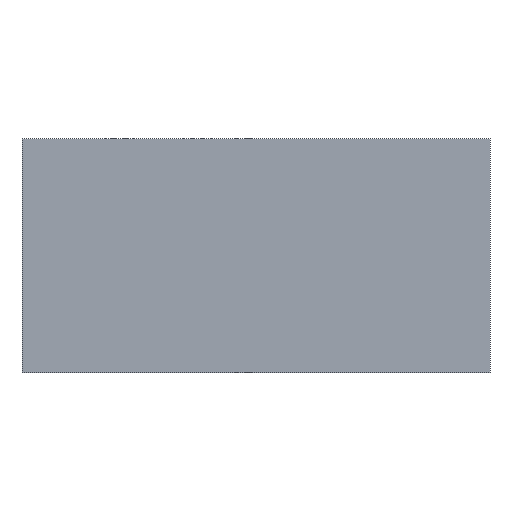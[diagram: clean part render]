
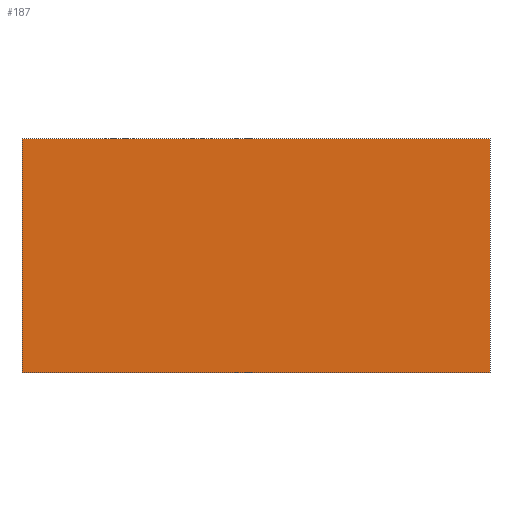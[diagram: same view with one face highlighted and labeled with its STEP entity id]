
A CAD part, front view. The second image highlights one B-rep face of the part: STEP entity #187.
In plain terms, the highlighted planar face has unit normal (0, -1, 0).
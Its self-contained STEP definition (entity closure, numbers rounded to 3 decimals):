
#25=FACE_OUTER_BOUND('',#36,.T.);
#36=EDGE_LOOP('',(#162,#163,#164,#165));
#53=LINE('',#302,#76);
#55=LINE('',#306,#78);
#57=LINE('',#310,#80);
#59=LINE('',#313,#82);
#76=VECTOR('',#251,10.);
#78=VECTOR('',#255,10.);
#80=VECTOR('',#259,10.);
#82=VECTOR('',#263,10.);
#93=VERTEX_POINT('',#299);
#94=VERTEX_POINT('',#301);
#95=VERTEX_POINT('',#305);
#96=VERTEX_POINT('',#309);
#113=EDGE_CURVE('',#94,#93,#53,.T.);
#115=EDGE_CURVE('',#95,#94,#55,.T.);
#117=EDGE_CURVE('',#96,#95,#57,.T.);
#119=EDGE_CURVE('',#93,#96,#59,.T.);
#162=ORIENTED_EDGE('',*,*,#119,.T.);
#163=ORIENTED_EDGE('',*,*,#117,.T.);
#164=ORIENTED_EDGE('',*,*,#115,.T.);
#165=ORIENTED_EDGE('',*,*,#113,.T.);
#176=PLANE('',#218);
#187=ADVANCED_FACE('',(#25),#176,.T.);
#218=AXIS2_PLACEMENT_3D('',#314,#264,#265);
#251=DIRECTION('',(1.,0.,0.));
#255=DIRECTION('',(0.,0.,-1.));
#259=DIRECTION('',(-1.,0.,0.));
#263=DIRECTION('',(0.,0.,1.));
#264=DIRECTION('center_axis',(0.,-1.,0.));
#265=DIRECTION('ref_axis',(0.,0.,-1.));
#299=CARTESIAN_POINT('',(30.,-10.,-15.));
#301=CARTESIAN_POINT('',(-30.,-10.,-15.));
#302=CARTESIAN_POINT('',(30.,-10.,-15.));
#305=CARTESIAN_POINT('',(-30.,-10.,15.));
#306=CARTESIAN_POINT('',(-30.,-10.,-15.));
#309=CARTESIAN_POINT('',(30.,-10.,15.));
#310=CARTESIAN_POINT('',(-30.,-10.,15.));
#313=CARTESIAN_POINT('',(30.,-10.,15.));
#314=CARTESIAN_POINT('Origin',(0.,-10.,0.));
